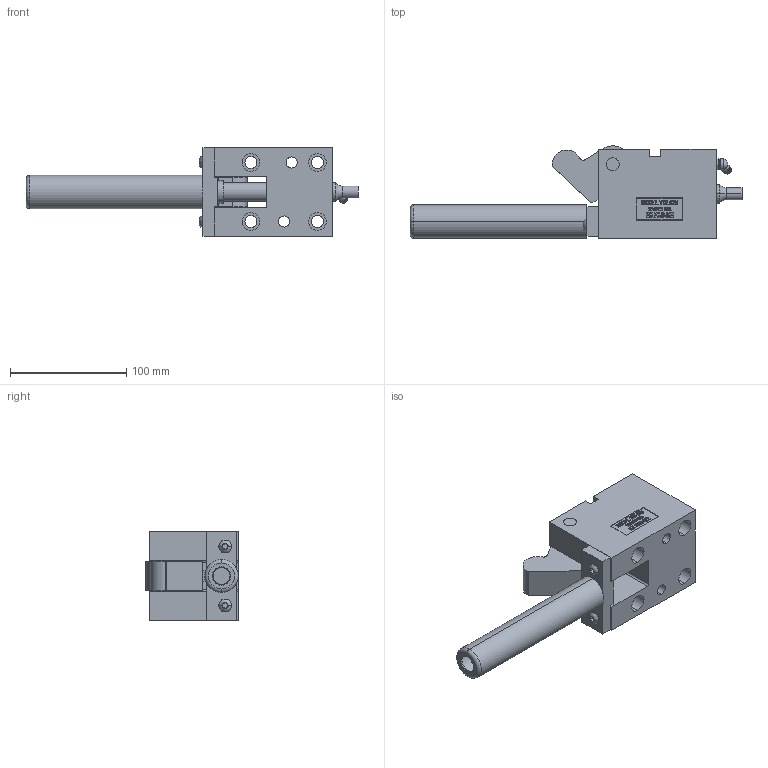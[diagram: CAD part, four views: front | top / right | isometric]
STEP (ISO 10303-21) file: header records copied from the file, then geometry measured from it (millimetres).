
FILE_DESCRIPTION (( 'STEP AP214' ), '1' );
FILE_NAME ('TOL62545-O.STEP', '2014-01-05T22:45:29', ( 'user' ), ( '' ), 'SwSTEP 2.0', 'SolidWorks 2009', '' );
FILE_SCHEMA (( 'AUTOMOTIVE_DESIGN' ));
Length unit declared in the file: inch
Products named in the file (10): TOL62545-O; OL625-CAGE; O-625-POINT; TOL625-BODY; 625-OFFSET TRIGGER; 625 PIVOT PIN; GREASE ZERK; OL625-PUNCH; 625-O-STRAP; 1-4 SCREW
Assembly tree (10 placements, depth 2):
  TOL62545-O
    625-OFFSET TRIGGER
    OL625-PUNCH
    O-625-POINT
    625-O-STRAP
    1-4 SCREW  x2
    TOL625-BODY
    GREASE ZERK
    625 PIVOT PIN
    OL625-CAGE
Bounding box: 285.62 x 79.37 x 76.2 mm (x, y, z)
Volume: 542118.6 mm3; surface area: 120903.3 mm2
Topology: 10 solids, 10 shells, 596 faces, 1541 edges, 1014 vertices
Faces by surface type: plane 347, bspline 101, cylinder 96, cone 26, torus 22, sphere 4
Entity records: 23773 total; most frequent: CARTESIAN_POINT 9860, ORIENTED_EDGE 2994, DIRECTION 2419, EDGE_CURVE 1497, VERTEX_POINT 988, LINE 979, VECTOR 979, AXIS2_PLACEMENT_3D 720
